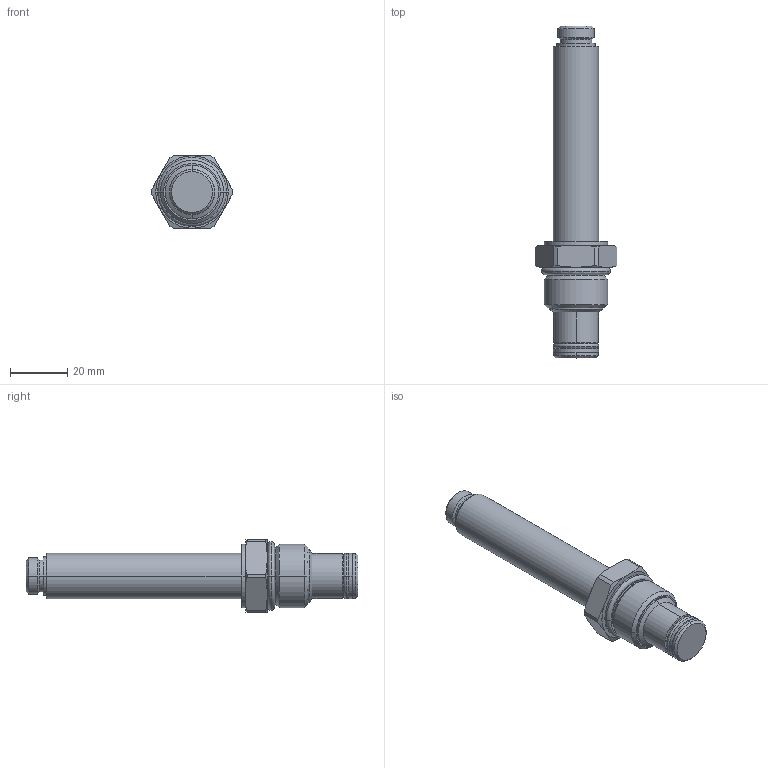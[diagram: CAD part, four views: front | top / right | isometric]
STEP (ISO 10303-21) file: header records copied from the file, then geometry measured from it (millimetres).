
FILE_DESCRIPTION((''),'2;1');
FILE_NAME('5003770_SW0001','2009-03-02T',('JCS'),(''),'PRO/ENGINEER BY PARAMETRIC TECHNOLOGY CORPORATION, 2008010','PRO/ENGINEER BY PARAMETRIC TECHNOLOGY CORPORATION, 2008010','');
FILE_SCHEMA(('CONFIG_CONTROL_DESIGN'));
Length unit declared in the file: inch
Products named in the file (1): 5003770_SW0001
Bounding box: 28.57 x 116.43 x 25.4 mm (x, y, z)
Volume: 28154.7 mm3; surface area: 8298.3 mm2
Topology: 2 solids, 2 shells, 117 faces, 254 edges, 148 vertices
Faces by surface type: cone 38, cylinder 36, plane 17, revolution 16, torus 10
Entity records: 3504 total; most frequent: CARTESIAN_POINT 885, DIRECTION 572, ORIENTED_EDGE 508, EDGE_CURVE 254, AXIS2_PLACEMENT_3D 241, VERTEX_POINT 148, CIRCLE 140, EDGE_LOOP 126
